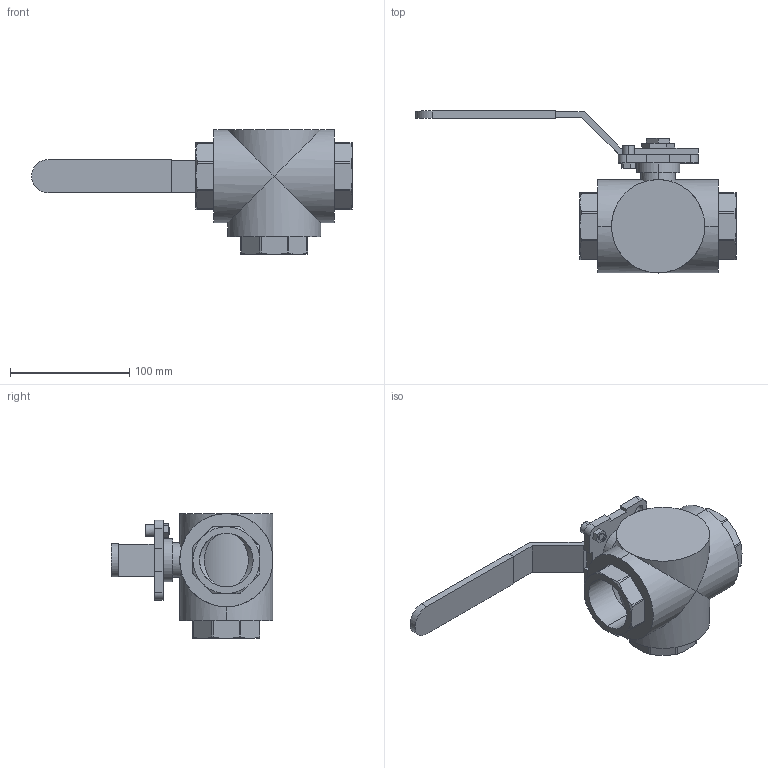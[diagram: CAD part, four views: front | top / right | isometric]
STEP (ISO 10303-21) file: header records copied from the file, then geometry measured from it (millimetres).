
FILE_DESCRIPTION (( 'STEP AP203' ), '1' );
FILE_NAME ('04.622I040IFVPB0.STEP', '2018-10-05T13:51:07', ( '' ), ( '' ), 'SwSTEP 2.0', 'SolidWorks 2014', '' );
FILE_SCHEMA (( 'CONFIG_CONTROL_DESIGN' ));
Length unit declared in the file: millimetre
Products named in the file (1): 04.622I040IFVPB0
Bounding box: 268.5 x 135.5 x 104.5 mm (x, y, z)
Volume: 658190.2 mm3; surface area: 89691.9 mm2
Topology: 1 solids, 1 shells, 202 faces, 521 edges, 335 vertices
Faces by surface type: plane 103, cylinder 69, cone 30
Entity records: 6786 total; most frequent: CARTESIAN_POINT 1801, ORIENTED_EDGE 1042, DIRECTION 993, EDGE_CURVE 521, AXIS2_PLACEMENT_3D 349, VERTEX_POINT 335, VECTOR 295, LINE 295
